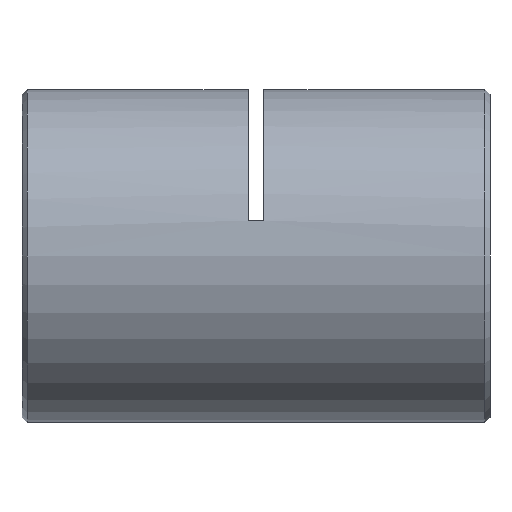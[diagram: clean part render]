
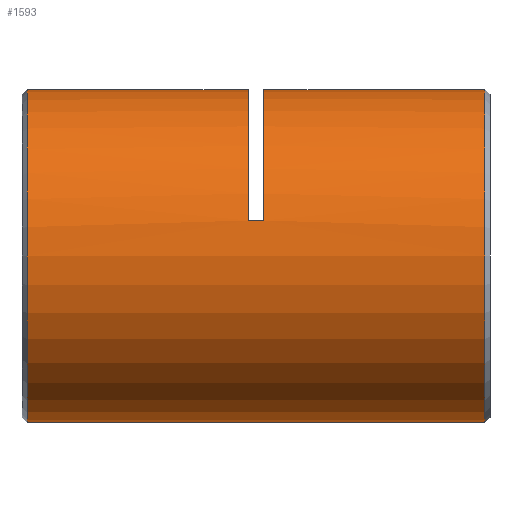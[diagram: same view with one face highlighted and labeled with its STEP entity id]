
A CAD part, left-side view. The second image highlights one B-rep face of the part: STEP entity #1593.
In plain terms, the highlighted cylindrical face has radius 16 mm (diameter 32 mm), a partial arc.
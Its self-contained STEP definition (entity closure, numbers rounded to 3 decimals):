
#189 = LINE ( 'NONE', #2146, #4616 ) ;
#198 = CARTESIAN_POINT ( 'NONE',  ( 0., 0., -16. ) ) ;
#401 = CIRCLE ( 'NONE', #3989, 16. ) ;
#650 = CARTESIAN_POINT ( 'NONE',  ( -15.632, 22.75, 3.413 ) ) ;
#826 = EDGE_CURVE ( 'NONE', #1701, #3388, #4735, .T. ) ;
#1021 = CARTESIAN_POINT ( 'NONE',  ( 0., 0.75, 0. ) ) ;
#1059 = CIRCLE ( 'NONE', #1669, 16. ) ;
#1064 = EDGE_CURVE ( 'NONE', #5870, #2820, #5122, .T. ) ;
#1134 = EDGE_CURVE ( 'NONE', #4094, #6275, #189, .T. ) ;
#1175 = ORIENTED_EDGE ( 'NONE', *, *, #826, .T. ) ;
#1266 = DIRECTION ( 'NONE',  ( 0., 1., 0. ) ) ;
#1371 = CIRCLE ( 'NONE', #1576, 16. ) ;
#1576 = AXIS2_PLACEMENT_3D ( 'NONE', #6182, #1780, #4285 ) ;
#1593 = ADVANCED_FACE ( 'NONE', ( #1686 ), #4676, .T. ) ;
#1607 = EDGE_CURVE ( 'NONE', #6275, #1675, #1371, .T. ) ;
#1669 = AXIS2_PLACEMENT_3D ( 'NONE', #5058, #2113, #3080 ) ;
#1675 = VERTEX_POINT ( 'NONE', #6153 ) ;
#1686 = FACE_OUTER_BOUND ( 'NONE', #1922, .T. ) ;
#1701 = VERTEX_POINT ( 'NONE', #5204 ) ;
#1733 = CARTESIAN_POINT ( 'NONE',  ( 0., 0.75, -16. ) ) ;
#1780 = DIRECTION ( 'NONE',  ( 0., -1., 0. ) ) ;
#1826 = CARTESIAN_POINT ( 'NONE',  ( 0., 23.5, 16. ) ) ;
#1877 = AXIS2_PLACEMENT_3D ( 'NONE', #2195, #4218, #2259 ) ;
#1922 = EDGE_LOOP ( 'NONE', ( #2919, #4967, #1175, #4086, #2479, #2810, #4905, #4493 ) ) ;
#2035 = EDGE_CURVE ( 'NONE', #2820, #4094, #3934, .T. ) ;
#2113 = DIRECTION ( 'NONE',  ( 0., 1., 0. ) ) ;
#2146 = CARTESIAN_POINT ( 'NONE',  ( 0., 0., 16. ) ) ;
#2195 = CARTESIAN_POINT ( 'NONE',  ( 0., 0., 0. ) ) ;
#2244 = DIRECTION ( 'NONE',  ( 0., 1., 0. ) ) ;
#2259 = DIRECTION ( 'NONE',  ( 0., 0., 1. ) ) ;
#2288 = CARTESIAN_POINT ( 'NONE',  ( 0., 44.75, 16. ) ) ;
#2479 = ORIENTED_EDGE ( 'NONE', *, *, #1064, .T. ) ;
#2558 = LINE ( 'NONE', #198, #2845 ) ;
#2810 = ORIENTED_EDGE ( 'NONE', *, *, #2035, .T. ) ;
#2820 = VERTEX_POINT ( 'NONE', #4889 ) ;
#2845 = VECTOR ( 'NONE', #4529, 1000. ) ;
#2919 = ORIENTED_EDGE ( 'NONE', *, *, #3316, .F. ) ;
#3004 = CARTESIAN_POINT ( 'NONE',  ( 0., 22., 16. ) ) ;
#3006 = DIRECTION ( 'NONE',  ( 0., 0., 1. ) ) ;
#3080 = DIRECTION ( 'NONE',  ( 0., 0., 1. ) ) ;
#3282 = VECTOR ( 'NONE', #4108, 1000. ) ;
#3316 = EDGE_CURVE ( 'NONE', #3429, #1675, #2558, .T. ) ;
#3388 = VERTEX_POINT ( 'NONE', #3004 ) ;
#3429 = VERTEX_POINT ( 'NONE', #1733 ) ;
#3717 = AXIS2_PLACEMENT_3D ( 'NONE', #5135, #1266, #4640 ) ;
#3934 = CIRCLE ( 'NONE', #3717, 16. ) ;
#3989 = AXIS2_PLACEMENT_3D ( 'NONE', #1021, #4428, #3006 ) ;
#4086 = ORIENTED_EDGE ( 'NONE', *, *, #4271, .F. ) ;
#4094 = VERTEX_POINT ( 'NONE', #1826 ) ;
#4108 = DIRECTION ( 'NONE',  ( 0., 1., 0. ) ) ;
#4218 = DIRECTION ( 'NONE',  ( 0., 1., 0. ) ) ;
#4271 = EDGE_CURVE ( 'NONE', #5870, #3388, #1059, .T. ) ;
#4285 = DIRECTION ( 'NONE',  ( 0., 0., -1. ) ) ;
#4307 = CARTESIAN_POINT ( 'NONE',  ( 0., 0., 16. ) ) ;
#4428 = DIRECTION ( 'NONE',  ( 0., 1., 0. ) ) ;
#4493 = ORIENTED_EDGE ( 'NONE', *, *, #1607, .T. ) ;
#4529 = DIRECTION ( 'NONE',  ( 0., 1., 0. ) ) ;
#4616 = VECTOR ( 'NONE', #5035, 1000. ) ;
#4640 = DIRECTION ( 'NONE',  ( 0., 0., 1. ) ) ;
#4676 = CYLINDRICAL_SURFACE ( 'NONE', #1877, 16. ) ;
#4735 = LINE ( 'NONE', #4307, #6278 ) ;
#4889 = CARTESIAN_POINT ( 'NONE',  ( -15.632, 23.5, 3.413 ) ) ;
#4905 = ORIENTED_EDGE ( 'NONE', *, *, #1134, .T. ) ;
#4967 = ORIENTED_EDGE ( 'NONE', *, *, #6031, .T. ) ;
#5035 = DIRECTION ( 'NONE',  ( 0., 1., 0. ) ) ;
#5058 = CARTESIAN_POINT ( 'NONE',  ( 0., 22., 0. ) ) ;
#5122 = LINE ( 'NONE', #650, #3282 ) ;
#5135 = CARTESIAN_POINT ( 'NONE',  ( 0., 23.5, 0. ) ) ;
#5204 = CARTESIAN_POINT ( 'NONE',  ( 0., 0.75, 16. ) ) ;
#5771 = CARTESIAN_POINT ( 'NONE',  ( -15.632, 22., 3.413 ) ) ;
#5870 = VERTEX_POINT ( 'NONE', #5771 ) ;
#6031 = EDGE_CURVE ( 'NONE', #3429, #1701, #401, .T. ) ;
#6153 = CARTESIAN_POINT ( 'NONE',  ( 0., 44.75, -16. ) ) ;
#6182 = CARTESIAN_POINT ( 'NONE',  ( 0., 44.75, 0. ) ) ;
#6275 = VERTEX_POINT ( 'NONE', #2288 ) ;
#6278 = VECTOR ( 'NONE', #2244, 1000. ) ;
